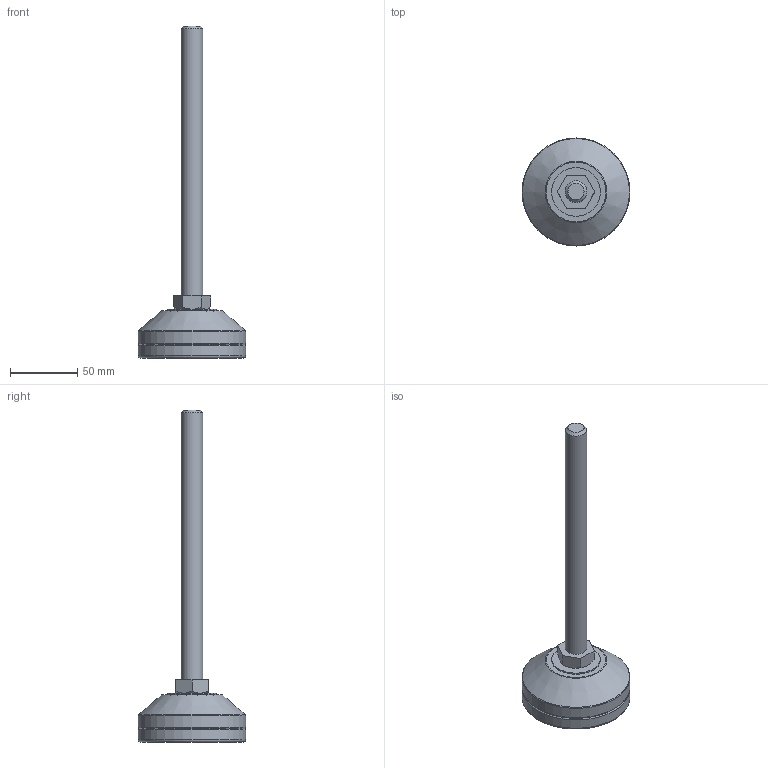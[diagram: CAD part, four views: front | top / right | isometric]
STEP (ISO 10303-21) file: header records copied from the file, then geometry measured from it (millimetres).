
FILE_DESCRIPTION(/* description */ (''),/* implementation_level */ '2;1');
FILE_NAME(/* name */ 'D:\조절자\FR\FR-M16-200L.stp',/* time_stamp */ '2016-03-14T14:37:46+09:00',/* author */ ('GS-DT-1-001'),/* organization */ (''),/* preprocessor_version */ 'ST-DEVELOPER v15.6',/* originating_system */ 'Autodesk Inventor LT ',/* authorisation */ '');
FILE_SCHEMA (('AUTOMOTIVE_DESIGN { 1 0 10303 214 3 1 1 }'));
Length unit declared in the file: millimetre
Products named in the file (1): FR-M16-200L
Bounding box: 80 x 80 x 246 mm (x, y, z)
Volume: 163157.2 mm3; surface area: 37472.1 mm2
Topology: 1 solids, 5 shells, 50 faces, 87 edges, 53 vertices
Faces by surface type: plane 22, cylinder 14, cone 8, torus 6
Full cylindrical faces by diameter (mm): 6.912 x1, 8 x1, 8.2 x1, 8.3 x1, 16 x2, 36 x1, 50 x1, 57 x1, 61 x1, 71 x1, 75 x1, 80 x2
Entity records: 1060 total; most frequent: DIRECTION 194, CARTESIAN_POINT 173, ORIENTED_EDGE 116, AXIS2_PLACEMENT_3D 91, EDGE_LOOP 88, EDGE_CURVE 58, VERTEX_POINT 52, FACE_OUTER_BOUND 50
